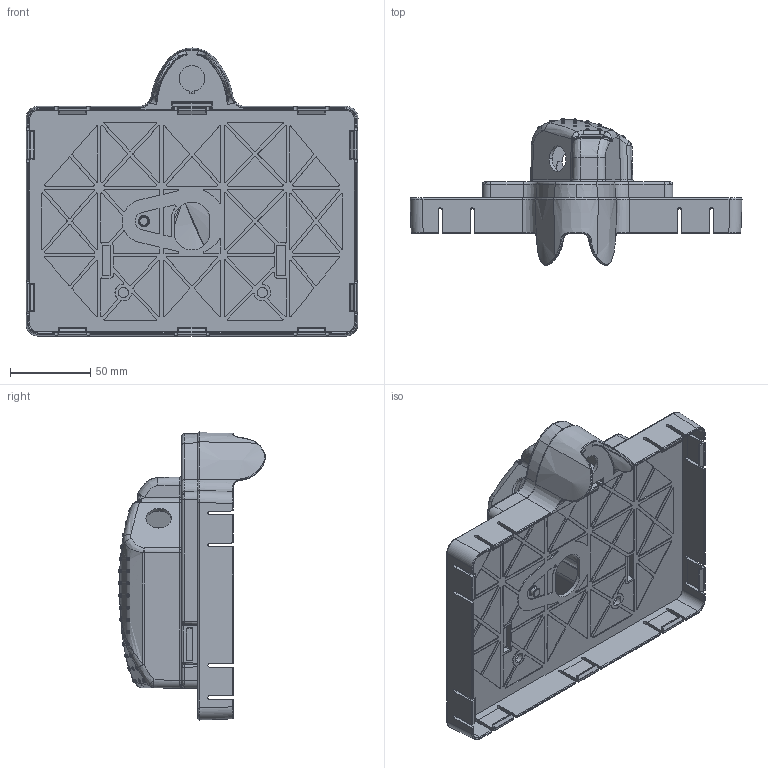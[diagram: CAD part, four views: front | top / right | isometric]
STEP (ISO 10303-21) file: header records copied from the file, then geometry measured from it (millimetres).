
FILE_DESCRIPTION((''),'2;1');
FILE_NAME('ASM0012_ASM','2023-06-26T16:47:19',('AaronMiao'),(''),'CREO PARAMETRIC BY PTC INC, 2018300','CREO PARAMETRIC BY PTC INC, 2018300','');
FILE_SCHEMA(('CONFIG_CONTROL_DESIGN','SHAPE_APPEARANCE_LAYERS_GROUPS'));
Products named in the file (3): PRT0007; SHELL2_HANDHELD_20230411_1; ASM0012_ASM
Assembly tree (2 placements, depth 2):
  ASM0012_ASM
    PRT0007
    SHELL2_HANDHELD_20230411_1
Bounding box: 207.46 x 91.7 x 179.99 mm (x, y, z)
Surface area: 167886.9 mm2 (no closed solid volume)
Topology: 0 solids, 2 shells, 3218 faces, 8404 edges, 5168 vertices
Faces by surface type: cylinder 911, bspline 727, plane 727, cone 513, torus 199, sphere 120, extrusion 19, revolution 2
Entity records: 203727 total; most frequent: CARTESIAN_POINT 118568, ORIENTED_EDGE 16428, DIRECTION 11492, EDGE_CURVE 8216, VERTEX_POINT 5168, AXIS2_PLACEMENT_3D 4215, PRESENTATION_STYLE_ASSIGNMENT 4079, STYLED_ITEM 3480
